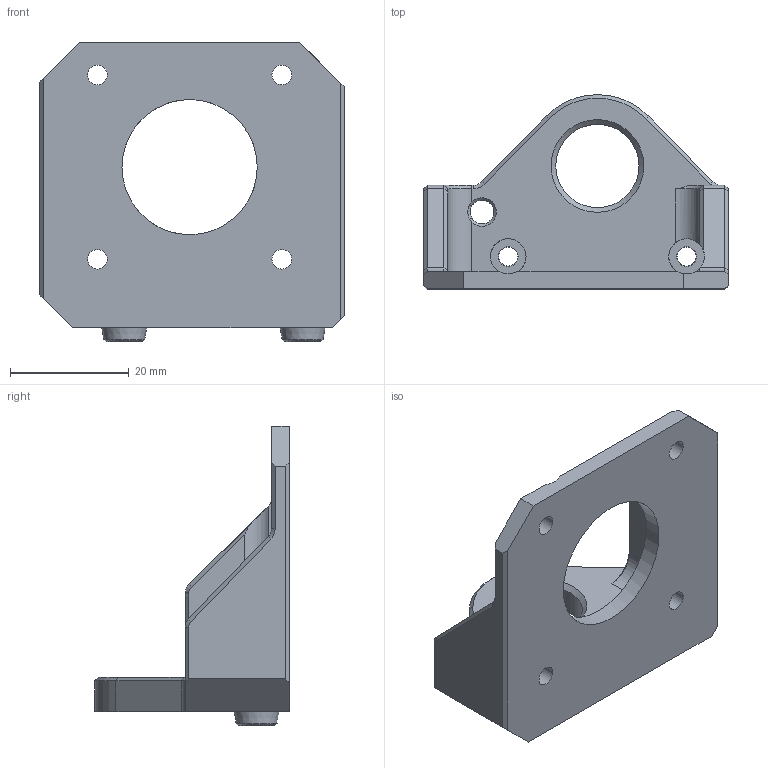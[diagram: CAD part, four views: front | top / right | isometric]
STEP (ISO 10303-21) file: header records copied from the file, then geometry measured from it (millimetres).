
FILE_DESCRIPTION(/* description */ (''),/* implementation_level */ '2;1');
FILE_NAME(/* name */ 'HMG7-Creality-Dual-Gear-Front-Mount.step',/* time_stamp */ '2022-11-01T22:04:32-07:00',/* author */ (''),/* organization */ (''),/* preprocessor_version */ 'ST-DEVELOPER v19.2',/* originating_system */ 'Autodesk Translation Framework v11.17.0.187',/* authorisation */ '');
FILE_SCHEMA (('AUTOMOTIVE_DESIGN { 1 0 10303 214 3 1 1 }'));
Length unit declared in the file: millimetre
Products named in the file (3): GEN_7_1.5; Creality_Dual_Gear_Front; Creality Dual _Gear_Mount_Front_Stepper
Assembly tree (2 placements, depth 3):
  GEN_7_1.5
    Creality_Dual_Gear_Front
      Creality Dual _Gear_Mount_Front_Stepper
Bounding box: 51.2 x 32.75 x 50.37 mm (x, y, z)
Volume: 13421.7 mm3; surface area: 8357.3 mm2
Topology: 1 solids, 1 shells, 89 faces, 228 edges, 143 vertices
Faces by surface type: plane 44, cylinder 22, cone 20, bspline 3
Full cylindrical faces by diameter (mm): 3.2 x2, 3.3 x6, 4 x1, 6 x2, 14 x1, 22.75 x1
Entity records: 2896 total; most frequent: CARTESIAN_POINT 594, DIRECTION 473, ORIENTED_EDGE 456, EDGE_CURVE 228, AXIS2_PLACEMENT_3D 167, VERTEX_POINT 143, LINE 139, VECTOR 139
